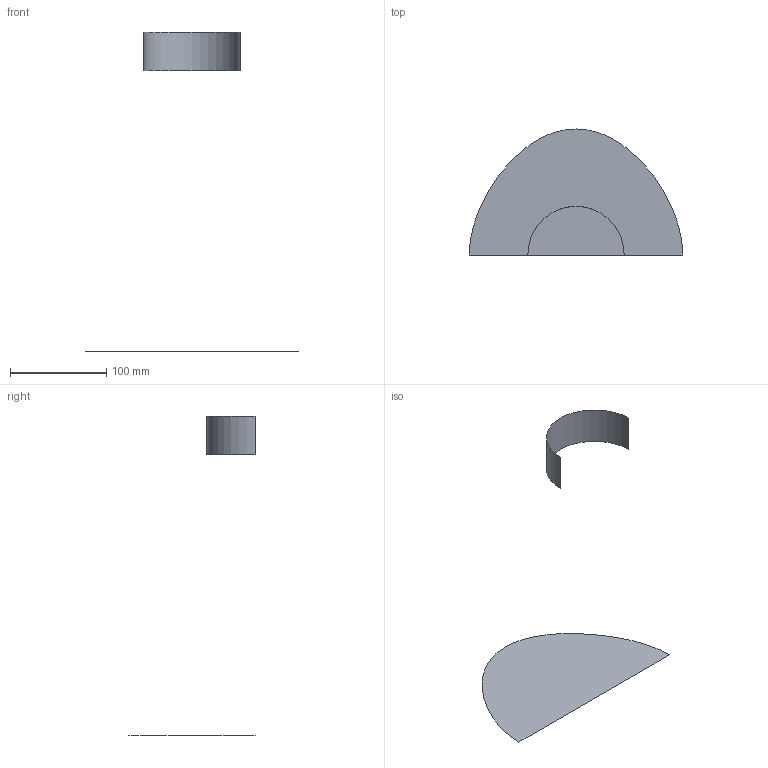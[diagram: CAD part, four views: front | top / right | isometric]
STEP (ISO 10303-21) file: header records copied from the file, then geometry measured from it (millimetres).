
FILE_DESCRIPTION(('CATIA V5 STEP Exchange'),'2;1');
FILE_NAME('C:\_Andres\UNIVERSIDAD\IQS\ASIGNATURAS\DAO\Controles\1617\c1\1original\Pares_Guanybens_Ej00-base_v21.stp','2017-02-06T16:27:46+00:00',('none'),('none'),'CATIA Version 5-6 Release 2014 SP1 HF18','CATIA V5 STEP AP203','none');
FILE_SCHEMA(('CONFIG_CONTROL_DESIGN'));
Length unit declared in the file: millimetre
Products named in the file (1): Pares_Guanybens_Ej00-base_v21
Bounding box: 222 x 131 x 332 mm (x, y, z)
Surface area: 28180.6 mm2 (no closed solid volume)
Topology: 0 solids, 2 shells, 2 faces, 16 edges, 26 vertices
Faces by surface type: cylinder 1, plane 1
Entity records: 230 total; most frequent: CARTESIAN_POINT 78, DIRECTION 16, COMPOSITE_CURVE_SEGMENT 9, TRIMMED_CURVE 9, AXIS2_PLACEMENT_3D 8, COMPOSITE_CURVE 7, ORIENTED_EDGE 7, EDGE_CURVE 7
